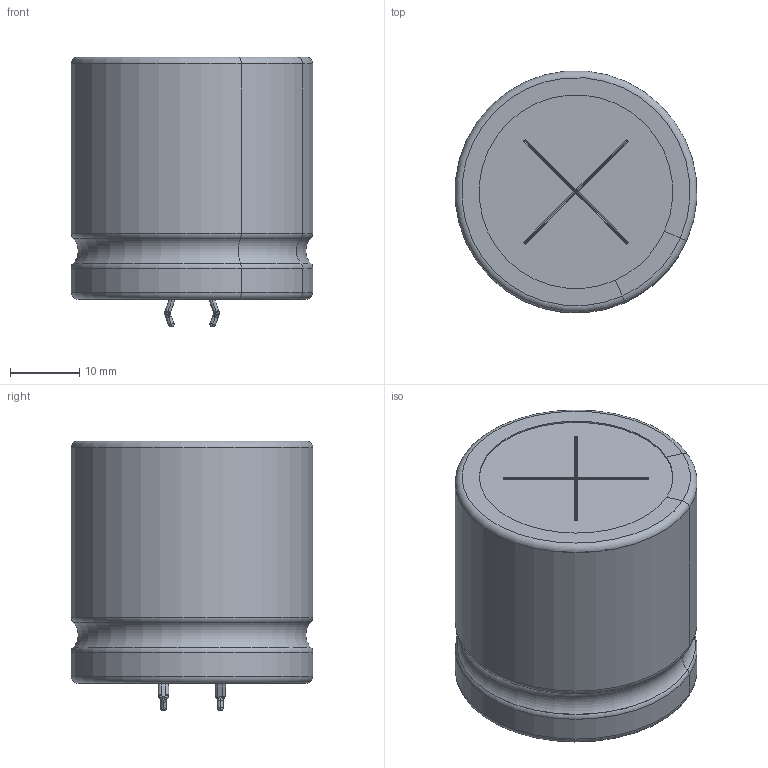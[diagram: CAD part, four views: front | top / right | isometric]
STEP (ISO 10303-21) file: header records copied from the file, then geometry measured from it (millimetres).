
FILE_DESCRIPTION(/* description */ (''),/* implementation_level */ '2;1');
FILE_NAME(/* name */ '35x35_Snap.stp',/* time_stamp */ '2017-09-11T16:28:23+09:00',/* author */ (''),/* organization */ (''),/* preprocessor_version */ 'ST-DEVELOPER v16',/* originating_system */ 'SIEMENS PLM Software NX 11.0',/* authorisation */ '');
FILE_SCHEMA (('AUTOMOTIVE_DESIGN { 1 0 10303 214 3 1 1 1 }'));
Length unit declared in the file: millimetre
Products named in the file (1): 35x35_Snap_0
Bounding box: 34.9 x 34.9 x 39.02 mm (x, y, z)
Volume: 33078.1 mm3; surface area: 14702 mm2
Topology: 5 solids, 5 shells, 208 faces, 523 edges, 310 vertices
Faces by surface type: cylinder 76, plane 75, torus 25, sphere 20, bspline 12
Full cylindrical faces by diameter (mm): 4 x2, 34.6 x2
Entity records: 6775 total; most frequent: CARTESIAN_POINT 1265, DIRECTION 1128, ORIENTED_EDGE 988, EDGE_CURVE 494, AXIS2_PLACEMENT_3D 437, VERTEX_POINT 310, LINE 254, VECTOR 254
